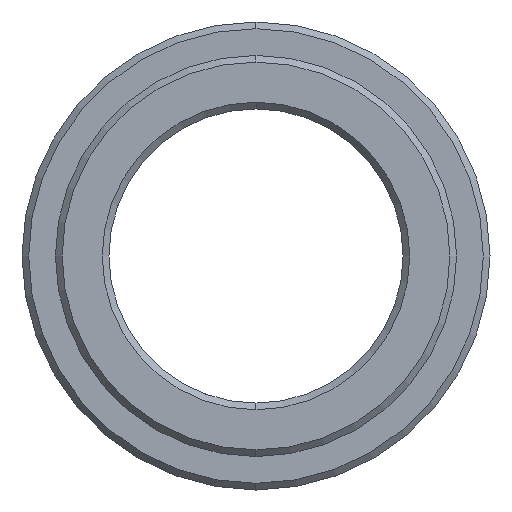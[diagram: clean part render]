
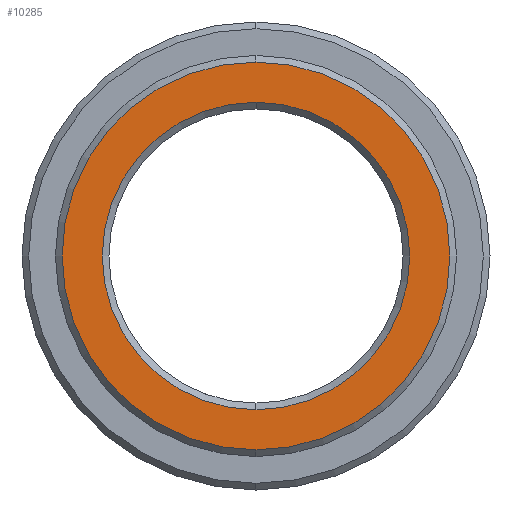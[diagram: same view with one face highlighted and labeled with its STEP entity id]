
A CAD part, left-side view. The second image highlights one B-rep face of the part: STEP entity #10285.
In plain terms, the highlighted planar face has unit normal (-1, 0, 0).
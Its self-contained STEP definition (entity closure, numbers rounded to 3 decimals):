
#6770=CARTESIAN_POINT('',(-8.,0.,0.));
#6771=DIRECTION('',(1.,0.,0.));
#6772=DIRECTION('',(0.,0.,1.));
#6773=AXIS2_PLACEMENT_3D('',#6770,#6771,#6772);
#6775=CARTESIAN_POINT('',(-8.,0.,0.));
#6776=DIRECTION('',(1.,0.,0.));
#6777=DIRECTION('',(0.,0.,-1.));
#6778=AXIS2_PLACEMENT_3D('',#6775,#6776,#6777);
#6780=CARTESIAN_POINT('',(-8.,0.,
0.));
#6781=DIRECTION('',(1.,0.,0.));
#6782=DIRECTION('',(0.,0.,-1.));
#6783=AXIS2_PLACEMENT_3D('',#6780,#6781,#6782);
#6785=CARTESIAN_POINT('',(-8.,0.,
0.));
#6786=DIRECTION('',(1.,0.,0.));
#6787=DIRECTION('',(0.,0.,1.));
#6788=AXIS2_PLACEMENT_3D('',#6785,#6786,#6787);
#7230=CARTESIAN_POINT('',(-8.,0.,-11.5));
#7231=CARTESIAN_POINT('',(-8.,0.,11.5));
#7232=VERTEX_POINT('',#7230);
#7233=VERTEX_POINT('',#7231);
#7238=CARTESIAN_POINT('',(-8.,0.,14.5));
#7239=CARTESIAN_POINT('',(-8.,0.,-14.5));
#7240=VERTEX_POINT('',#7238);
#7241=VERTEX_POINT('',#7239);
#10270=CARTESIAN_POINT('',(-8.,0.,0.));
#10271=DIRECTION('',(1.,0.,0.));
#10272=DIRECTION('',(0.,0.,1.));
#10273=AXIS2_PLACEMENT_3D('',#10270,#10271,#10272);
#10274=PLANE('',#10273);
#10275=ORIENTED_EDGE('',*,*,#10237,.T.);
#10276=ORIENTED_EDGE('',*,*,#10252,.T.);
#10277=EDGE_LOOP('',(#10275,#10276));
#10278=FACE_OUTER_BOUND('',#10277,.F.);
#10280=ORIENTED_EDGE('',*,*,#10279,.F.);
#10282=ORIENTED_EDGE('',*,*,#10281,.F.);
#10283=EDGE_LOOP('',(#10280,#10282));
#10284=FACE_BOUND('',#10283,.F.);
#10285=ADVANCED_FACE('',(#10278,#10284),#10274,.F.);
#6774=CIRCLE('',#6773,14.5);
#6779=CIRCLE('',#6778,14.5);
#6784=CIRCLE('',#6783,11.5);
#6789=CIRCLE('',#6788,11.5);
#10237=EDGE_CURVE('',#7240,#7241,#6774,.T.);
#10252=EDGE_CURVE('',#7241,#7240,#6779,.T.);
#10279=EDGE_CURVE('',#7232,#7233,#6784,.T.);
#10281=EDGE_CURVE('',#7233,#7232,#6789,.T.);
